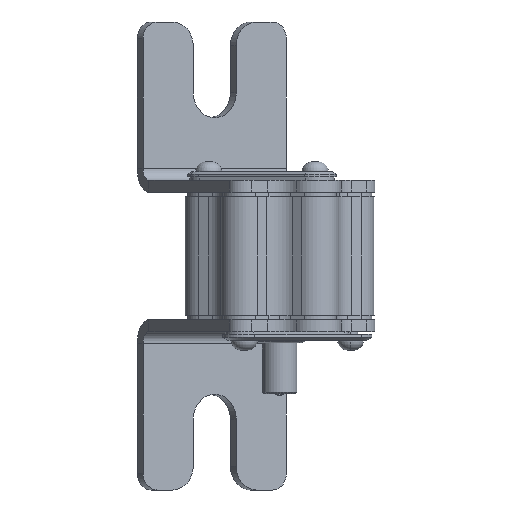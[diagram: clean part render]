
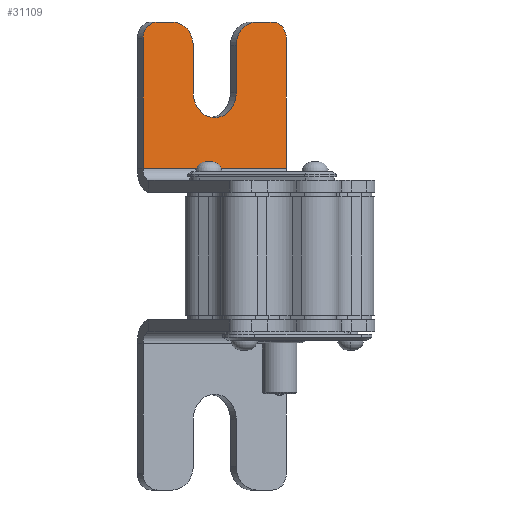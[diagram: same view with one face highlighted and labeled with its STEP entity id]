
A CAD part, front view. The second image highlights one B-rep face of the part: STEP entity #31109.
In plain terms, the highlighted planar face has unit normal (0.5, -0.866, 0).
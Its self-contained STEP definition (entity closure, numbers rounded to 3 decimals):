
#268 = VERTEX_POINT ( 'NONE', #19331 ) ;
#476 = VERTEX_POINT ( 'NONE', #4079 ) ;
#1397 = ORIENTED_EDGE ( 'NONE', *, *, #42161, .F. ) ;
#2236 = LINE ( 'NONE', #25925, #22138 ) ;
#2652 = AXIS2_PLACEMENT_3D ( 'NONE', #26953, #7513, #30956 ) ;
#3506 = CARTESIAN_POINT ( 'NONE',  ( -4.873, 28.941, 49.5 ) ) ;
#4079 = CARTESIAN_POINT ( 'NONE',  ( 1.405, 32.566, 46. ) ) ;
#4156 = EDGE_CURVE ( 'NONE', #15759, #38303, #17116, .T. ) ;
#4276 = EDGE_CURVE ( 'NONE', #30889, #15759, #22833, .T. ) ;
#4516 = AXIS2_PLACEMENT_3D ( 'NONE', #20123, #17061, #30095 ) ;
#4730 = VECTOR ( 'NONE', #18463, 1000. ) ;
#5276 = VECTOR ( 'NONE', #31676, 1000. ) ;
#5464 = VERTEX_POINT ( 'NONE', #23622 ) ;
#6763 = CARTESIAN_POINT ( 'NONE',  ( -9.203, 26.441, 34.5 ) ) ;
#7044 = DIRECTION ( 'NONE',  ( 0.866, 0.5, 0. ) ) ;
#7507 = VERTEX_POINT ( 'NONE', #6763 ) ;
#7513 = DIRECTION ( 'NONE',  ( 0.5, -0.866, 0. ) ) ;
#8441 = LINE ( 'NONE', #8732, #35693 ) ;
#8732 = CARTESIAN_POINT ( 'NONE',  ( -28.905, 15.066, 49.5 ) ) ;
#9208 = DIRECTION ( 'NONE',  ( 0.5, -0.866, 0. ) ) ;
#9438 = LINE ( 'NONE', #24726, #4730 ) ;
#9923 = CARTESIAN_POINT ( 'NONE',  ( -9.203, 26.441, 44.5 ) ) ;
#10056 = CARTESIAN_POINT ( 'NONE',  ( 1.405, 32.566, 18.5 ) ) ;
#11115 = ORIENTED_EDGE ( 'NONE', *, *, #4276, .T. ) ;
#11393 = CIRCLE ( 'NONE', #40814, 3.5 ) ;
#12395 = CARTESIAN_POINT ( 'NONE',  ( -18.297, 21.191, 44.5 ) ) ;
#12736 = VERTEX_POINT ( 'NONE', #9923 ) ;
#13909 = ORIENTED_EDGE ( 'NONE', *, *, #31426, .F. ) ;
#14129 = EDGE_CURVE ( 'NONE', #27423, #25949, #9438, .T. ) ;
#15125 = LINE ( 'NONE', #25580, #41393 ) ;
#15759 = VERTEX_POINT ( 'NONE', #37631 ) ;
#16227 = FACE_OUTER_BOUND ( 'NONE', #24412, .T. ) ;
#16297 = CARTESIAN_POINT ( 'NONE',  ( -1.626, 30.816, 49.5 ) ) ;
#16813 = ORIENTED_EDGE ( 'NONE', *, *, #4156, .T. ) ;
#16999 = CARTESIAN_POINT ( 'NONE',  ( -28.905, 15.066, 49.5 ) ) ;
#17061 = DIRECTION ( 'NONE',  ( 0.5, -0.866, 0. ) ) ;
#17116 = LINE ( 'NONE', #23545, #38597 ) ;
#17739 = PLANE ( 'NONE',  #31729 ) ;
#17741 = DIRECTION ( 'NONE',  ( 0.5, -0.866, 0. ) ) ;
#18099 = CIRCLE ( 'NONE', #2652, 3.5 ) ;
#18463 = DIRECTION ( 'NONE',  ( 0., 0., -1. ) ) ;
#18572 = DIRECTION ( 'NONE',  ( 0.5, -0.866, 0. ) ) ;
#19331 = CARTESIAN_POINT ( 'NONE',  ( -25.874, 16.816, 49.5 ) ) ;
#19667 = VERTEX_POINT ( 'NONE', #3506 ) ;
#20123 = CARTESIAN_POINT ( 'NONE',  ( -4.873, 28.941, 44.5 ) ) ;
#20790 = DIRECTION ( 'NONE',  ( 0.5, -0.866, 0. ) ) ;
#22138 = VECTOR ( 'NONE', #22861, 1000. ) ;
#22641 = EDGE_CURVE ( 'NONE', #27423, #5464, #27771, .T. ) ;
#22833 = LINE ( 'NONE', #16999, #30739 ) ;
#22861 = DIRECTION ( 'NONE',  ( 0.866, 0.5, 0. ) ) ;
#23545 = CARTESIAN_POINT ( 'NONE',  ( -28.905, 15.066, 18.5 ) ) ;
#23622 = CARTESIAN_POINT ( 'NONE',  ( -22.627, 18.691, 49.5 ) ) ;
#24412 = EDGE_LOOP ( 'NONE', ( #40147, #27516, #1397, #42497, #11115, #16813, #13909, #28908, #30149, #38665, #26862, #39562 ) ) ;
#24726 = CARTESIAN_POINT ( 'NONE',  ( -18.297, 21.191, 49.5 ) ) ;
#25418 = EDGE_CURVE ( 'NONE', #19667, #25620, #8441, .T. ) ;
#25580 = CARTESIAN_POINT ( 'NONE',  ( 1.405, 32.566, 49.5 ) ) ;
#25620 = VERTEX_POINT ( 'NONE', #16297 ) ;
#25925 = CARTESIAN_POINT ( 'NONE',  ( -28.905, 15.066, 49.5 ) ) ;
#25949 = VERTEX_POINT ( 'NONE', #38280 ) ;
#26862 = ORIENTED_EDGE ( 'NONE', *, *, #37266, .F. ) ;
#26933 = CIRCLE ( 'NONE', #36502, 5.25 ) ;
#26953 = CARTESIAN_POINT ( 'NONE',  ( -25.874, 16.816, 46. ) ) ;
#27389 = EDGE_CURVE ( 'NONE', #25949, #7507, #26933, .T. ) ;
#27423 = VERTEX_POINT ( 'NONE', #12395 ) ;
#27512 = CARTESIAN_POINT ( 'NONE',  ( -22.627, 18.691, 44.5 ) ) ;
#27516 = ORIENTED_EDGE ( 'NONE', *, *, #22641, .T. ) ;
#27771 = CIRCLE ( 'NONE', #40794, 5. ) ;
#28908 = ORIENTED_EDGE ( 'NONE', *, *, #32169, .T. ) ;
#29120 = CARTESIAN_POINT ( 'NONE',  ( -13.75, 23.816, 34.5 ) ) ;
#30095 = DIRECTION ( 'NONE',  ( 0., 0., 1. ) ) ;
#30149 = ORIENTED_EDGE ( 'NONE', *, *, #25418, .F. ) ;
#30739 = VECTOR ( 'NONE', #31338, 1000. ) ;
#30889 = VERTEX_POINT ( 'NONE', #40039 ) ;
#30956 = DIRECTION ( 'NONE',  ( 0., 0., 1. ) ) ;
#31109 = ADVANCED_FACE ( 'NONE', ( #16227 ), #17739, .T. ) ;
#31338 = DIRECTION ( 'NONE',  ( 0., 0., -1. ) ) ;
#31426 = EDGE_CURVE ( 'NONE', #476, #38303, #15125, .T. ) ;
#31676 = DIRECTION ( 'NONE',  ( 0., 0., 1. ) ) ;
#31729 = AXIS2_PLACEMENT_3D ( 'NONE', #41069, #20790, #41224 ) ;
#31752 = CARTESIAN_POINT ( 'NONE',  ( -1.626, 30.816, 46. ) ) ;
#32030 = DIRECTION ( 'NONE',  ( 0., 0., 1. ) ) ;
#32135 = DIRECTION ( 'NONE',  ( 0.866, 0.5, 0. ) ) ;
#32169 = EDGE_CURVE ( 'NONE', #476, #25620, #11393, .T. ) ;
#33027 = CIRCLE ( 'NONE', #4516, 5. ) ;
#35693 = VECTOR ( 'NONE', #32135, 1000. ) ;
#36502 = AXIS2_PLACEMENT_3D ( 'NONE', #29120, #9208, #39571 ) ;
#36888 = DIRECTION ( 'NONE',  ( 0., 0., -1. ) ) ;
#37023 = EDGE_CURVE ( 'NONE', #19667, #12736, #33027, .T. ) ;
#37266 = EDGE_CURVE ( 'NONE', #7507, #12736, #40404, .T. ) ;
#37631 = CARTESIAN_POINT ( 'NONE',  ( -28.905, 15.066, 18.5 ) ) ;
#38280 = CARTESIAN_POINT ( 'NONE',  ( -18.297, 21.191, 34.5 ) ) ;
#38303 = VERTEX_POINT ( 'NONE', #10056 ) ;
#38460 = CARTESIAN_POINT ( 'NONE',  ( -9.203, 26.441, 49.5 ) ) ;
#38597 = VECTOR ( 'NONE', #7044, 1000. ) ;
#38665 = ORIENTED_EDGE ( 'NONE', *, *, #37023, .T. ) ;
#38910 = EDGE_CURVE ( 'NONE', #268, #30889, #18099, .T. ) ;
#39562 = ORIENTED_EDGE ( 'NONE', *, *, #27389, .F. ) ;
#39571 = DIRECTION ( 'NONE',  ( 0., 0., 1. ) ) ;
#40039 = CARTESIAN_POINT ( 'NONE',  ( -28.905, 15.066, 46. ) ) ;
#40147 = ORIENTED_EDGE ( 'NONE', *, *, #14129, .F. ) ;
#40404 = LINE ( 'NONE', #38460, #5276 ) ;
#40642 = DIRECTION ( 'NONE',  ( 0., 0., 1. ) ) ;
#40794 = AXIS2_PLACEMENT_3D ( 'NONE', #27512, #17741, #40642 ) ;
#40814 = AXIS2_PLACEMENT_3D ( 'NONE', #31752, #18572, #32030 ) ;
#41069 = CARTESIAN_POINT ( 'NONE',  ( -28.905, 15.066, 49.5 ) ) ;
#41224 = DIRECTION ( 'NONE',  ( 0., 0., 1. ) ) ;
#41393 = VECTOR ( 'NONE', #36888, 1000. ) ;
#42161 = EDGE_CURVE ( 'NONE', #268, #5464, #2236, .T. ) ;
#42497 = ORIENTED_EDGE ( 'NONE', *, *, #38910, .T. ) ;
